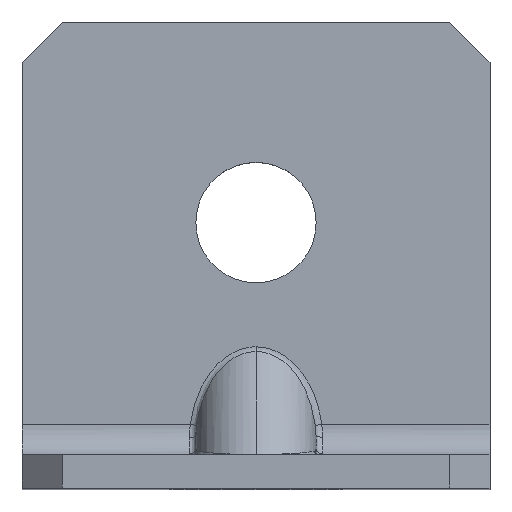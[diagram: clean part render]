
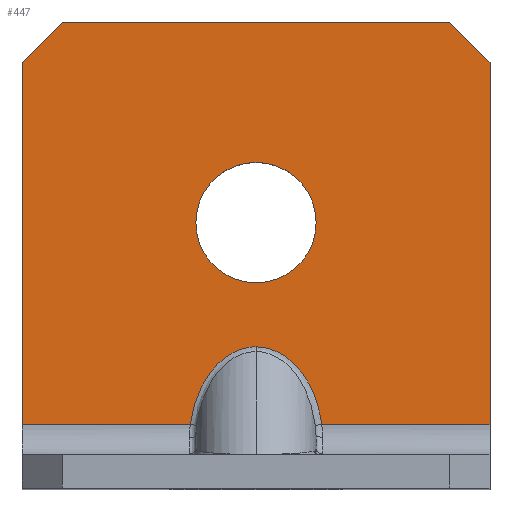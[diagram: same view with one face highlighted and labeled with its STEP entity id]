
A CAD part, top view. The second image highlights one B-rep face of the part: STEP entity #447.
In plain terms, the highlighted planar face has unit normal (0, 0, 1).
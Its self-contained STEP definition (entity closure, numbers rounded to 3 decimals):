
#17 = EDGE_CURVE ( 'NONE', #1031, #720, #511, .T. ) ;
#50 = VERTEX_POINT ( 'NONE', #1026 ) ;
#66 = CARTESIAN_POINT ( 'NONE',  ( 33.5, 16., 2.5 ) ) ;
#79 = EDGE_CURVE ( 'NONE', #489, #1303, #290, .T. ) ;
#110 = DIRECTION ( 'NONE',  ( -1., 0., 0. ) ) ;
#115 = CARTESIAN_POINT ( 'NONE',  ( 4.919, 4.9, 2.5 ) ) ;
#117 = ORIENTED_EDGE ( 'NONE', *, *, #525, .T. ) ;
#122 = DIRECTION ( 'NONE',  ( 1., 0., 0. ) ) ;
#127 = CARTESIAN_POINT ( 'NONE',  ( -4.919, 4.9, 2.5 ) ) ;
#136 = FACE_OUTER_BOUND ( 'NONE', #666, .T. ) ;
#143 = CARTESIAN_POINT ( 'NONE',  ( -2.527, 10.707, 2.5 ) ) ;
#165 = VECTOR ( 'NONE', #514, 1000. ) ;
#182 = CARTESIAN_POINT ( 'NONE',  ( -17.5, 32., 2.5 ) ) ;
#186 = AXIS2_PLACEMENT_3D ( 'NONE', #1179, #543, #122 ) ;
#205 = ORIENTED_EDGE ( 'NONE', *, *, #1212, .F. ) ;
#206 = AXIS2_PLACEMENT_3D ( 'NONE', #965, #485, #900 ) ;
#217 = CARTESIAN_POINT ( 'NONE',  ( 0., 10.707, 2.5 ) ) ;
#228 = CARTESIAN_POINT ( 'NONE',  ( 17.5, 4.9, 2.5 ) ) ;
#231 = CARTESIAN_POINT ( 'NONE',  ( 14.5, 35., 2.5 ) ) ;
#232 = ORIENTED_EDGE ( 'NONE', *, *, #920, .F. ) ;
#233 = CARTESIAN_POINT ( 'NONE',  ( 0., 10.707, 2.5 ) ) ;
#238 = VERTEX_POINT ( 'NONE', #1054 ) ;
#246 = CARTESIAN_POINT ( 'NONE',  ( 17.5, 0., 2.5 ) ) ;
#267 = LINE ( 'NONE', #1234, #1023 ) ;
#290 = CIRCLE ( 'NONE', #509, 4.5 ) ;
#291 = VECTOR ( 'NONE', #536, 1000. ) ;
#304 = CARTESIAN_POINT ( 'NONE',  ( 17.5, 4.9, 2.5 ) ) ;
#330 = CARTESIAN_POINT ( 'NONE',  ( 0., 20., 2.5 ) ) ;
#370 = EDGE_CURVE ( 'NONE', #720, #238, #570, .T. ) ;
#375 = VERTEX_POINT ( 'NONE', #1069 ) ;
#405 = CARTESIAN_POINT ( 'NONE',  ( 17.5, 4.9, 2.5 ) ) ;
#428 = CARTESIAN_POINT ( 'NONE',  ( 2.527, 10.707, 2.5 ) ) ;
#447 = ADVANCED_FACE ( 'NONE', ( #136, #1224 ), #861, .T. ) ;
#485 = DIRECTION ( 'NONE',  ( 0., 0., 1. ) ) ;
#489 = VERTEX_POINT ( 'NONE', #879 ) ;
#501 = LINE ( 'NONE', #228, #896 ) ;
#509 = AXIS2_PLACEMENT_3D ( 'NONE', #330, #630, #934 ) ;
#511 = LINE ( 'NONE', #66, #754 ) ;
#514 = DIRECTION ( 'NONE',  ( -1., 0., 0. ) ) ;
#525 = EDGE_CURVE ( 'NONE', #50, #597, #710, .T. ) ;
#527 = ORIENTED_EDGE ( 'NONE', *, *, #17, .T. ) ;
#528 = CARTESIAN_POINT ( 'NONE',  ( 4.919, 4.9, 2.5 ) ) ;
#532 = CARTESIAN_POINT ( 'NONE',  ( 4.468, 8.417, 2.5 ) ) ;
#533 = CARTESIAN_POINT ( 'NONE',  ( 17.5, 32., 2.5 ) ) ;
#536 = DIRECTION ( 'NONE',  ( -1., 0., 0. ) ) ;
#543 = DIRECTION ( 'NONE',  ( 0., 0., 1. ) ) ;
#547 = EDGE_CURVE ( 'NONE', #1303, #489, #550, .T. ) ;
#550 = CIRCLE ( 'NONE', #186, 4.5 ) ;
#558 = CARTESIAN_POINT ( 'NONE',  ( 4.5, 20., 2.5 ) ) ;
#570 = LINE ( 'NONE', #1164, #291 ) ;
#594 = CARTESIAN_POINT ( 'NONE',  ( -17.5, 4.9, 2.5 ) ) ;
#597 = VERTEX_POINT ( 'NONE', #115 ) ;
#599 = VECTOR ( 'NONE', #1030, 1000. ) ;
#616 = DIRECTION ( 'NONE',  ( 0., 1., 0. ) ) ;
#627 = ORIENTED_EDGE ( 'NONE', *, *, #733, .T. ) ;
#630 = DIRECTION ( 'NONE',  ( 0., 0., 1. ) ) ;
#666 = EDGE_LOOP ( 'NONE', ( #205, #707, #117, #1045, #627, #527, #1125, #854, #232 ) ) ;
#689 = EDGE_CURVE ( 'NONE', #940, #597, #501, .T. ) ;
#707 = ORIENTED_EDGE ( 'NONE', *, *, #1306, .T. ) ;
#710 =( BOUNDED_CURVE ( )  B_SPLINE_CURVE ( 3, ( #217, #428, #532, #528 ),
 .UNSPECIFIED., .F., .T. ) 
 B_SPLINE_CURVE_WITH_KNOTS ( ( 4, 4 ),
 ( 0., 1.391 ),
 .UNSPECIFIED. ) 
 CURVE ( )  GEOMETRIC_REPRESENTATION_ITEM ( )  RATIONAL_B_SPLINE_CURVE ( ( 1., 0.845, 0.845, 1. ) ) 
 REPRESENTATION_ITEM ( '' )  );
#720 = VERTEX_POINT ( 'NONE', #231 ) ;
#733 = EDGE_CURVE ( 'NONE', #940, #1031, #845, .T. ) ;
#754 = VECTOR ( 'NONE', #1036, 1000. ) ;
#794 = ORIENTED_EDGE ( 'NONE', *, *, #79, .F. ) ;
#809 = EDGE_LOOP ( 'NONE', ( #794, #1170 ) ) ;
#811 = EDGE_CURVE ( 'NONE', #238, #1183, #883, .T. ) ;
#845 = LINE ( 'NONE', #246, #1034 ) ;
#854 = ORIENTED_EDGE ( 'NONE', *, *, #811, .T. ) ;
#861 = PLANE ( 'NONE',  #206 ) ;
#879 = CARTESIAN_POINT ( 'NONE',  ( -4.5, 20., 2.5 ) ) ;
#883 = LINE ( 'NONE', #1323, #599 ) ;
#896 = VECTOR ( 'NONE', #110, 1000. ) ;
#900 = DIRECTION ( 'NONE',  ( 1., 0., 0. ) ) ;
#920 = EDGE_CURVE ( 'NONE', #1140, #1183, #267, .T. ) ;
#934 = DIRECTION ( 'NONE',  ( 1., 0., 0. ) ) ;
#940 = VERTEX_POINT ( 'NONE', #304 ) ;
#964 = DIRECTION ( 'NONE',  ( 0., 1., 0. ) ) ;
#965 = CARTESIAN_POINT ( 'NONE',  ( 17.5, 0., 2.5 ) ) ;
#968 = LINE ( 'NONE', #405, #165 ) ;
#993 = CARTESIAN_POINT ( 'NONE',  ( -4.468, 8.417, 2.5 ) ) ;
#1023 = VECTOR ( 'NONE', #616, 1000. ) ;
#1026 = CARTESIAN_POINT ( 'NONE',  ( 0., 10.707, 2.5 ) ) ;
#1030 = DIRECTION ( 'NONE',  ( -0.707, -0.707, 0. ) ) ;
#1031 = VERTEX_POINT ( 'NONE', #533 ) ;
#1034 = VECTOR ( 'NONE', #964, 1000. ) ;
#1036 = DIRECTION ( 'NONE',  ( -0.707, 0.707, 0. ) ) ;
#1045 = ORIENTED_EDGE ( 'NONE', *, *, #689, .F. ) ;
#1054 = CARTESIAN_POINT ( 'NONE',  ( -14.5, 35., 2.5 ) ) ;
#1069 = CARTESIAN_POINT ( 'NONE',  ( -4.919, 4.9, 2.5 ) ) ;
#1125 = ORIENTED_EDGE ( 'NONE', *, *, #370, .T. ) ;
#1140 = VERTEX_POINT ( 'NONE', #594 ) ;
#1159 =( BOUNDED_CURVE ( )  B_SPLINE_CURVE ( 3, ( #127, #993, #143, #233 ),
 .UNSPECIFIED., .F., .T. ) 
 B_SPLINE_CURVE_WITH_KNOTS ( ( 4, 4 ),
 ( 1.751, 3.142 ),
 .UNSPECIFIED. ) 
 CURVE ( )  GEOMETRIC_REPRESENTATION_ITEM ( )  RATIONAL_B_SPLINE_CURVE ( ( 1., 0.845, 0.845, 1. ) ) 
 REPRESENTATION_ITEM ( '' )  );
#1164 = CARTESIAN_POINT ( 'NONE',  ( 17.5, 35., 2.5 ) ) ;
#1170 = ORIENTED_EDGE ( 'NONE', *, *, #547, .F. ) ;
#1179 = CARTESIAN_POINT ( 'NONE',  ( 0., 20., 2.5 ) ) ;
#1183 = VERTEX_POINT ( 'NONE', #182 ) ;
#1212 = EDGE_CURVE ( 'NONE', #375, #1140, #968, .T. ) ;
#1224 = FACE_BOUND ( 'NONE', #809, .T. ) ;
#1234 = CARTESIAN_POINT ( 'NONE',  ( -17.5, 0., 2.5 ) ) ;
#1303 = VERTEX_POINT ( 'NONE', #558 ) ;
#1306 = EDGE_CURVE ( 'NONE', #375, #50, #1159, .T. ) ;
#1323 = CARTESIAN_POINT ( 'NONE',  ( -16., 33.5, 2.5 ) ) ;
